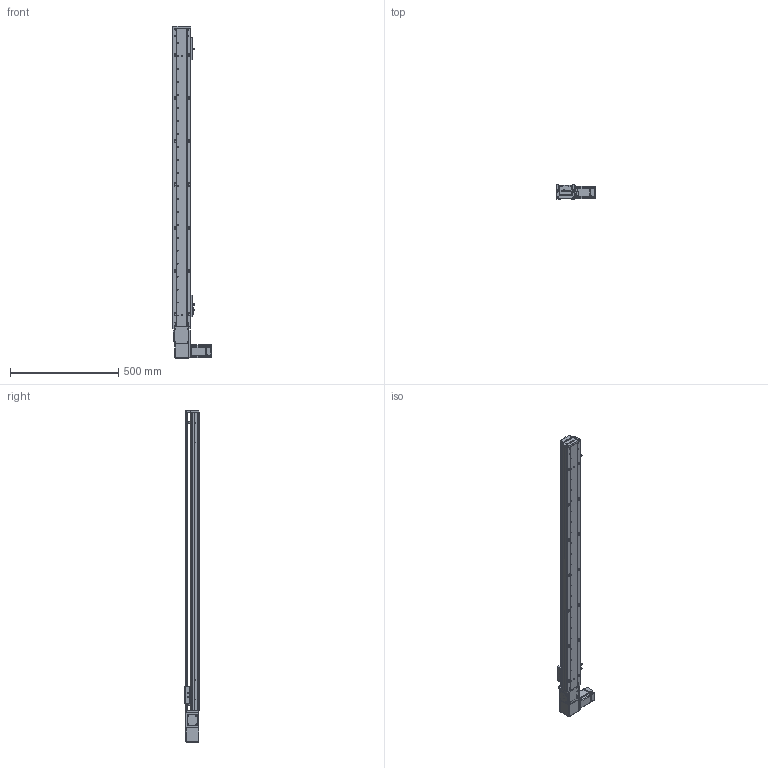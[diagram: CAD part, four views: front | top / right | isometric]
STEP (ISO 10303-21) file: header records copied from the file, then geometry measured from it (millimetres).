
FILE_DESCRIPTION (( 'STEP AP203' ), '1' );
FILE_NAME ('RY80-T-300-RK.SLDASM_1200.step', '2021-03-01T02:07:38', ( '盈信电脑' ), ( '东莞市道滘镇水果街19号' ), 'SwSTEP 2.0', 'SolidWorks 2012', '' );
FILE_SCHEMA (( 'CONFIG_CONTROL_DESIGN' ));
Length unit declared in the file: millimetre
Products named in the file (20): RY80-T肮祭湍揤輸1; RY80-T萇儂假蚾啣; RY80-T粣創揤踡輸; RY80-T肮祭湍揤輸2; 1; 侂狟200W萇儂; RY80-T-翋肮祭謫釱; RY80-T綴裔啣; 覜茼ん672; RY80俋离覜茼え; 672嫖萇羲壽假蚾釱; RY80-T-300-RK倰第菁釱_1200; RY80-T-300-RK倰第奻裔啣_1200; RY80-T肮祭謫臏賑輸; RY80-T-M4蹟翐; RY80-T肮祭謫俋欶; RY80-T翋肮祭謫裔啣; RY80-T-300-RK.SLDASM_1200; RY100-T粣創揤踡裔; 滅袉蝶18-10
Assembly tree (25 placements, depth 3):
  RY80-T-300-RK.SLDASM_1200
    RY80-T-300-RK倰第菁釱_1200
    RY80-T肮祭謫臏賑輸
    RY80-T-300-RK倰第奻裔啣_1200
    RY80-T綴裔啣
    672嫖萇羲壽假蚾釱  x2
    覜茼ん672  x3
    RY80俋离覜茼え
    侂狟200W萇儂
      1
    RY80-T-翋肮祭謫釱
    RY80-T萇儂假蚾啣
    RY80-T肮祭湍揤輸1
    RY80-T肮祭湍揤輸2
    RY80-T粣創揤踡輸
    RY80-T-M4蹟翐  x2
    RY80-T翋肮祭謫裔啣  x2
    RY80-T肮祭謫俋欶
    滅袉蝶18-10  x2
    RY100-T粣創揤踡裔
Bounding box: 180 x 65 x 1535 mm (x, y, z)
Volume: 2453090.4 mm3; surface area: 1030545.3 mm2
Topology: 24 solids, 24 shells, 2499 faces, 6886 edges, 4475 vertices
Faces by surface type: plane 1332, cylinder 962, cone 149, bspline 56
Entity records: 78650 total; most frequent: CARTESIAN_POINT 18977, ORIENTED_EDGE 12216, DIRECTION 11526, EDGE_CURVE 6108, VERTEX_POINT 4016, AXIS2_PLACEMENT_3D 3889, LINE 3748, VECTOR 3748
